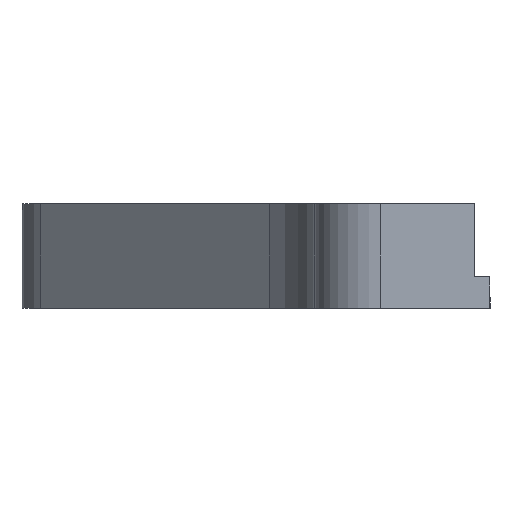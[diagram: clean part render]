
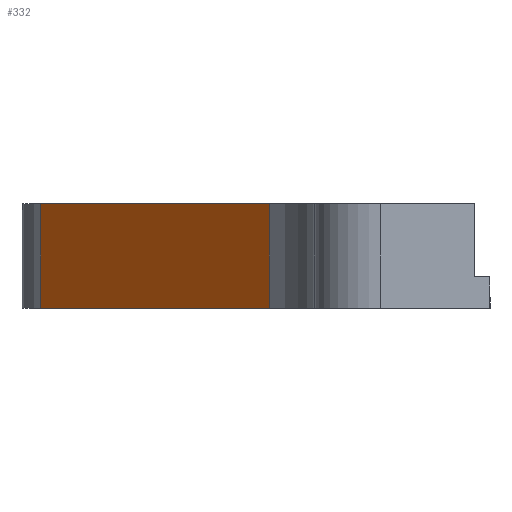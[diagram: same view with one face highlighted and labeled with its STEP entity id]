
A CAD part, left-side view. The second image highlights one B-rep face of the part: STEP entity #332.
In plain terms, the highlighted planar face has unit normal (-0.707, 0.707, 0).
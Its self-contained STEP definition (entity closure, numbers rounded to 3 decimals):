
#12 = ORIENTED_EDGE ( 'NONE', *, *, #606, .T. ) ;
#142 = ORIENTED_EDGE ( 'NONE', *, *, #428, .T. ) ;
#161 = LINE ( 'NONE', #355, #1328 ) ;
#162 = LINE ( 'NONE', #605, #417 ) ;
#224 = ORIENTED_EDGE ( 'NONE', *, *, #1363, .F. ) ;
#236 = VERTEX_POINT ( 'NONE', #378 ) ;
#277 = DIRECTION ( 'NONE',  ( 0.707, 0.707, 0. ) ) ;
#298 = CARTESIAN_POINT ( 'NONE',  ( 190.944, 81.574, 40. ) ) ;
#305 = EDGE_CURVE ( 'NONE', #1399, #236, #162, .T. ) ;
#332 = ADVANCED_FACE ( 'NONE', ( #1259 ), #602, .F. ) ;
#337 = DIRECTION ( 'NONE',  ( -0.707, -0.707, 0. ) ) ;
#340 = CARTESIAN_POINT ( 'NONE',  ( 278.284, 168.914, 40. ) ) ;
#355 = CARTESIAN_POINT ( 'NONE',  ( 190.944, 81.574, 40. ) ) ;
#378 = CARTESIAN_POINT ( 'NONE',  ( 278.284, 168.914, 0. ) ) ;
#417 = VECTOR ( 'NONE', #1258, 1000. ) ;
#428 = EDGE_CURVE ( 'NONE', #1290, #1112, #161, .T. ) ;
#436 = VECTOR ( 'NONE', #1292, 1000. ) ;
#472 = ORIENTED_EDGE ( 'NONE', *, *, #305, .T. ) ;
#602 = PLANE ( 'NONE',  #1147 ) ;
#605 = CARTESIAN_POINT ( 'NONE',  ( 278.284, 168.914, 40. ) ) ;
#606 = EDGE_CURVE ( 'NONE', #236, #1290, #767, .T. ) ;
#767 = LINE ( 'NONE', #975, #436 ) ;
#922 = VECTOR ( 'NONE', #337, 1000. ) ;
#938 = DIRECTION ( 'NONE',  ( 0.707, -0.707, 0. ) ) ;
#975 = CARTESIAN_POINT ( 'NONE',  ( 295.962, 186.591, 0. ) ) ;
#1056 = EDGE_LOOP ( 'NONE', ( #224, #472, #12, #142 ) ) ;
#1112 = VERTEX_POINT ( 'NONE', #298 ) ;
#1132 = DIRECTION ( 'NONE',  ( 0., 0., 1. ) ) ;
#1147 = AXIS2_PLACEMENT_3D ( 'NONE', #1367, #938, #277 ) ;
#1203 = CARTESIAN_POINT ( 'NONE',  ( 190.944, 81.574, 0. ) ) ;
#1214 = LINE ( 'NONE', #1323, #922 ) ;
#1258 = DIRECTION ( 'NONE',  ( 0., 0., -1. ) ) ;
#1259 = FACE_OUTER_BOUND ( 'NONE', #1056, .T. ) ;
#1290 = VERTEX_POINT ( 'NONE', #1203 ) ;
#1292 = DIRECTION ( 'NONE',  ( -0.707, -0.707, 0. ) ) ;
#1323 = CARTESIAN_POINT ( 'NONE',  ( 295.962, 186.591, 40. ) ) ;
#1328 = VECTOR ( 'NONE', #1132, 1000. ) ;
#1363 = EDGE_CURVE ( 'NONE', #1399, #1112, #1214, .T. ) ;
#1367 = CARTESIAN_POINT ( 'NONE',  ( 295.962, 186.591, 40. ) ) ;
#1399 = VERTEX_POINT ( 'NONE', #340 ) ;
